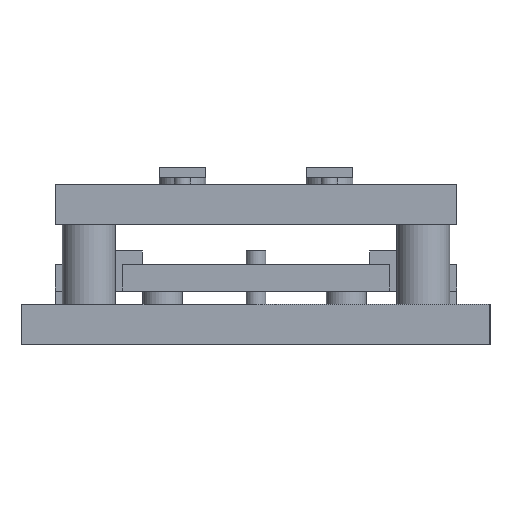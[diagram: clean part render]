
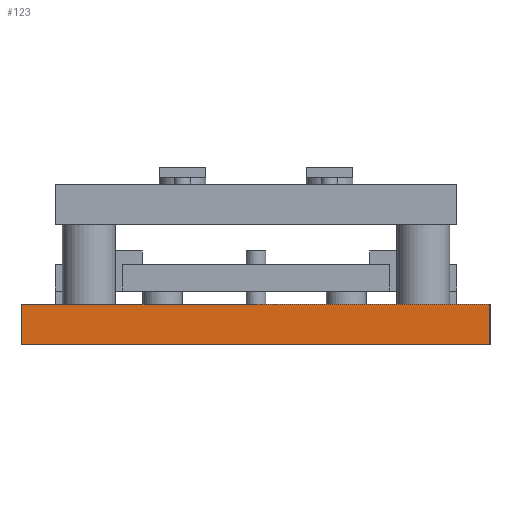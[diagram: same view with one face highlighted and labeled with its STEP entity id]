
A CAD part, left-side view. The second image highlights one B-rep face of the part: STEP entity #123.
In plain terms, the highlighted planar face has unit normal (-1, 0, 0).
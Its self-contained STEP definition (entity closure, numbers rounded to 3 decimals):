
#123 = ADVANCED_FACE('',(#124),#138,.F.);
#124 = FACE_BOUND('',#125,.F.);
#125 = EDGE_LOOP('',(#126,#161,#189,#217));
#126 = ORIENTED_EDGE('',*,*,#127,.F.);
#127 = EDGE_CURVE('',#128,#130,#132,.T.);
#128 = VERTEX_POINT('',#129);
#129 = CARTESIAN_POINT('',(-100.,-70.,0.));
#130 = VERTEX_POINT('',#131);
#131 = CARTESIAN_POINT('',(-100.,-70.,12.));
#132 = SURFACE_CURVE('',#133,(#137,#149),.PCURVE_S1.);
#133 = LINE('',#134,#135);
#134 = CARTESIAN_POINT('',(-100.,-70.,0.));
#135 = VECTOR('',#136,1.);
#136 = DIRECTION('',(0.,0.,1.));
#137 = PCURVE('',#138,#143);
#138 = PLANE('',#139);
#139 = AXIS2_PLACEMENT_3D('',#140,#141,#142);
#140 = CARTESIAN_POINT('',(-100.,-70.,0.));
#141 = DIRECTION('',(1.,0.,0.));
#142 = DIRECTION('',(0.,0.,1.));
#143 = DEFINITIONAL_REPRESENTATION('',(#144),#148);
#144 = LINE('',#145,#146);
#145 = CARTESIAN_POINT('',(0.,0.));
#146 = VECTOR('',#147,1.);
#147 = DIRECTION('',(1.,0.));
#148 = ( GEOMETRIC_REPRESENTATION_CONTEXT(2) 
PARAMETRIC_REPRESENTATION_CONTEXT() REPRESENTATION_CONTEXT('2D SPACE',''
  ) );
#149 = PCURVE('',#150,#155);
#150 = PLANE('',#151);
#151 = AXIS2_PLACEMENT_3D('',#152,#153,#154);
#152 = CARTESIAN_POINT('',(-100.,-70.,0.));
#153 = DIRECTION('',(0.,1.,0.));
#154 = DIRECTION('',(0.,0.,1.));
#155 = DEFINITIONAL_REPRESENTATION('',(#156),#160);
#156 = LINE('',#157,#158);
#157 = CARTESIAN_POINT('',(0.,0.));
#158 = VECTOR('',#159,1.);
#159 = DIRECTION('',(1.,0.));
#160 = ( GEOMETRIC_REPRESENTATION_CONTEXT(2) 
PARAMETRIC_REPRESENTATION_CONTEXT() REPRESENTATION_CONTEXT('2D SPACE',''
  ) );
#161 = ORIENTED_EDGE('',*,*,#162,.T.);
#162 = EDGE_CURVE('',#128,#163,#165,.T.);
#163 = VERTEX_POINT('',#164);
#164 = CARTESIAN_POINT('',(-100.,70.,0.));
#165 = SURFACE_CURVE('',#166,(#170,#177),.PCURVE_S1.);
#166 = LINE('',#167,#168);
#167 = CARTESIAN_POINT('',(-100.,-70.,0.));
#168 = VECTOR('',#169,1.);
#169 = DIRECTION('',(0.,1.,0.));
#170 = PCURVE('',#138,#171);
#171 = DEFINITIONAL_REPRESENTATION('',(#172),#176);
#172 = LINE('',#173,#174);
#173 = CARTESIAN_POINT('',(0.,0.));
#174 = VECTOR('',#175,1.);
#175 = DIRECTION('',(0.,-1.));
#176 = ( GEOMETRIC_REPRESENTATION_CONTEXT(2) 
PARAMETRIC_REPRESENTATION_CONTEXT() REPRESENTATION_CONTEXT('2D SPACE',''
  ) );
#177 = PCURVE('',#178,#183);
#178 = PLANE('',#179);
#179 = AXIS2_PLACEMENT_3D('',#180,#181,#182);
#180 = CARTESIAN_POINT('',(-100.,-70.,0.));
#181 = DIRECTION('',(0.,0.,1.));
#182 = DIRECTION('',(1.,0.,0.));
#183 = DEFINITIONAL_REPRESENTATION('',(#184),#188);
#184 = LINE('',#185,#186);
#185 = CARTESIAN_POINT('',(0.,0.));
#186 = VECTOR('',#187,1.);
#187 = DIRECTION('',(0.,1.));
#188 = ( GEOMETRIC_REPRESENTATION_CONTEXT(2) 
PARAMETRIC_REPRESENTATION_CONTEXT() REPRESENTATION_CONTEXT('2D SPACE',''
  ) );
#189 = ORIENTED_EDGE('',*,*,#190,.T.);
#190 = EDGE_CURVE('',#163,#191,#193,.T.);
#191 = VERTEX_POINT('',#192);
#192 = CARTESIAN_POINT('',(-100.,70.,12.));
#193 = SURFACE_CURVE('',#194,(#198,#205),.PCURVE_S1.);
#194 = LINE('',#195,#196);
#195 = CARTESIAN_POINT('',(-100.,70.,0.));
#196 = VECTOR('',#197,1.);
#197 = DIRECTION('',(0.,0.,1.));
#198 = PCURVE('',#138,#199);
#199 = DEFINITIONAL_REPRESENTATION('',(#200),#204);
#200 = LINE('',#201,#202);
#201 = CARTESIAN_POINT('',(0.,-140.));
#202 = VECTOR('',#203,1.);
#203 = DIRECTION('',(1.,0.));
#204 = ( GEOMETRIC_REPRESENTATION_CONTEXT(2) 
PARAMETRIC_REPRESENTATION_CONTEXT() REPRESENTATION_CONTEXT('2D SPACE',''
  ) );
#205 = PCURVE('',#206,#211);
#206 = PLANE('',#207);
#207 = AXIS2_PLACEMENT_3D('',#208,#209,#210);
#208 = CARTESIAN_POINT('',(-100.,70.,0.));
#209 = DIRECTION('',(0.,1.,0.));
#210 = DIRECTION('',(0.,0.,1.));
#211 = DEFINITIONAL_REPRESENTATION('',(#212),#216);
#212 = LINE('',#213,#214);
#213 = CARTESIAN_POINT('',(0.,0.));
#214 = VECTOR('',#215,1.);
#215 = DIRECTION('',(1.,0.));
#216 = ( GEOMETRIC_REPRESENTATION_CONTEXT(2) 
PARAMETRIC_REPRESENTATION_CONTEXT() REPRESENTATION_CONTEXT('2D SPACE',''
  ) );
#217 = ORIENTED_EDGE('',*,*,#218,.F.);
#218 = EDGE_CURVE('',#130,#191,#219,.T.);
#219 = SURFACE_CURVE('',#220,(#224,#231),.PCURVE_S1.);
#220 = LINE('',#221,#222);
#221 = CARTESIAN_POINT('',(-100.,-70.,12.));
#222 = VECTOR('',#223,1.);
#223 = DIRECTION('',(0.,1.,0.));
#224 = PCURVE('',#138,#225);
#225 = DEFINITIONAL_REPRESENTATION('',(#226),#230);
#226 = LINE('',#227,#228);
#227 = CARTESIAN_POINT('',(12.,0.));
#228 = VECTOR('',#229,1.);
#229 = DIRECTION('',(0.,-1.));
#230 = ( GEOMETRIC_REPRESENTATION_CONTEXT(2) 
PARAMETRIC_REPRESENTATION_CONTEXT() REPRESENTATION_CONTEXT('2D SPACE',''
  ) );
#231 = PCURVE('',#232,#237);
#232 = PLANE('',#233);
#233 = AXIS2_PLACEMENT_3D('',#234,#235,#236);
#234 = CARTESIAN_POINT('',(-100.,-70.,12.));
#235 = DIRECTION('',(0.,0.,1.));
#236 = DIRECTION('',(1.,0.,0.));
#237 = DEFINITIONAL_REPRESENTATION('',(#238),#242);
#238 = LINE('',#239,#240);
#239 = CARTESIAN_POINT('',(0.,0.));
#240 = VECTOR('',#241,1.);
#241 = DIRECTION('',(0.,1.));
#242 = ( GEOMETRIC_REPRESENTATION_CONTEXT(2) 
PARAMETRIC_REPRESENTATION_CONTEXT() REPRESENTATION_CONTEXT('2D SPACE',''
  ) );
